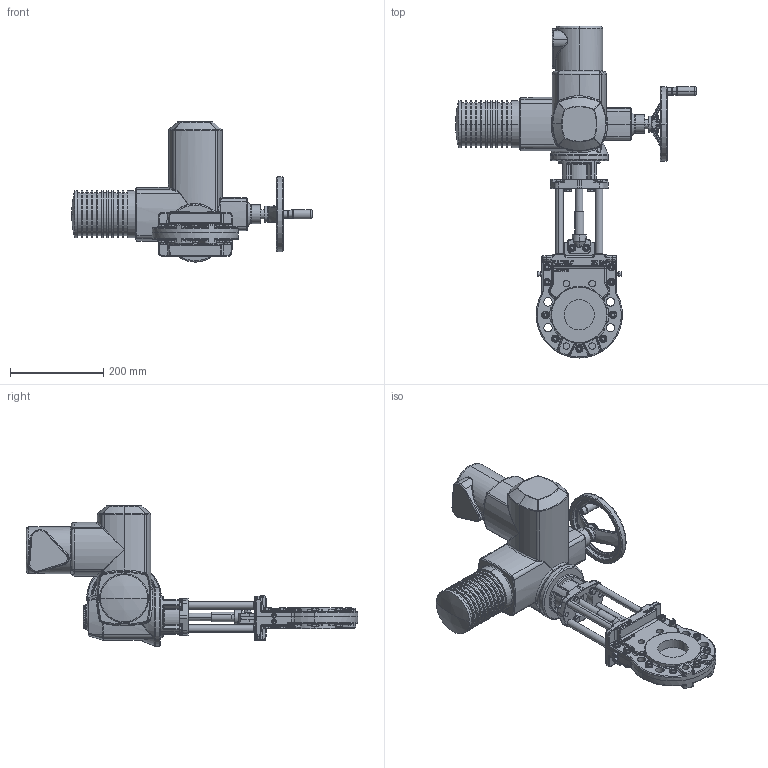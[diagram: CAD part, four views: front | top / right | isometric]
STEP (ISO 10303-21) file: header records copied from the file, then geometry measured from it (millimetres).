
FILE_DESCRIPTION (( 'STEP AP214' ), '1' );
FILE_NAME ('MGE DN 0065 PN10_16 (SA 07.2).STEP', '2015-09-23T08:37:31', ( 'admin' ), ( 'Hewlett-Packard Company' ), 'SwSTEP 2.0', 'SolidWorks 2013', '' );
FILE_SCHEMA (( 'AUTOMOTIVE_DESIGN' ));
Length unit declared in the file: millimetre
Products named in the file (1): MGE DN 0065 PN10_16 (SA 07.2)
Bounding box: 516 x 711 x 300.5 mm (x, y, z)
Volume: 9040942.6 mm3; surface area: 666560.5 mm2
Topology: 65 solids, 74 shells, 3036 faces, 7081 edges, 4169 vertices
Faces by surface type: plane 958, cylinder 789, cone 510, bspline 446, torus 291, sphere 42
Entity records: 141185 total; most frequent: CARTESIAN_POINT 41080, ORIENTED_EDGE 13878, DIRECTION 13602, EDGE_CURVE 6939, AXIS2_PLACEMENT_3D 5483, VERTEX_POINT 4169, EDGE_LOOP 3296, UNCERTAINTY_MEASURE_WITH_UNIT 3103
